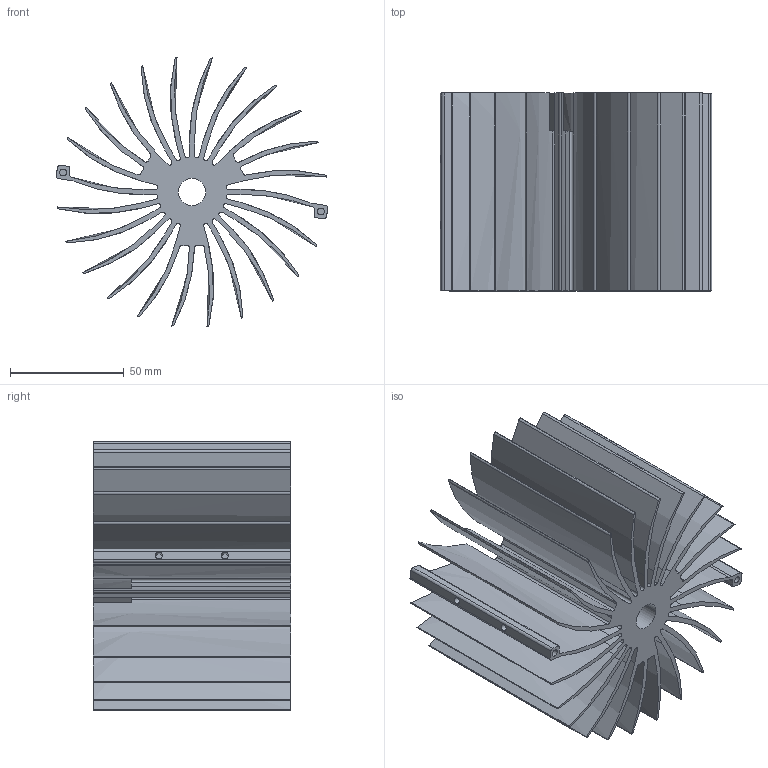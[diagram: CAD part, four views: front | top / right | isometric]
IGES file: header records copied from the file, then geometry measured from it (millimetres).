
Start section:  PTC IGES file: XSA-54.igs
Global section: file name: XSA-54.igs; native system: Creo Parametric by Parametric Technology Corporation; preprocessor: 2012230; author: Joel; organization: Unknown; date: 20120917.135241; units: millimetre
Bounding box: 119.24 x 86.9 x 118.31 mm (x, y, z)
Surface area: 187788.6 mm2 (no closed solid volume)
Topology: 0 solids, 0 shells, 267 faces, 1524 edges, 1524 vertices
Faces by surface type: revolution 180, bspline 87
